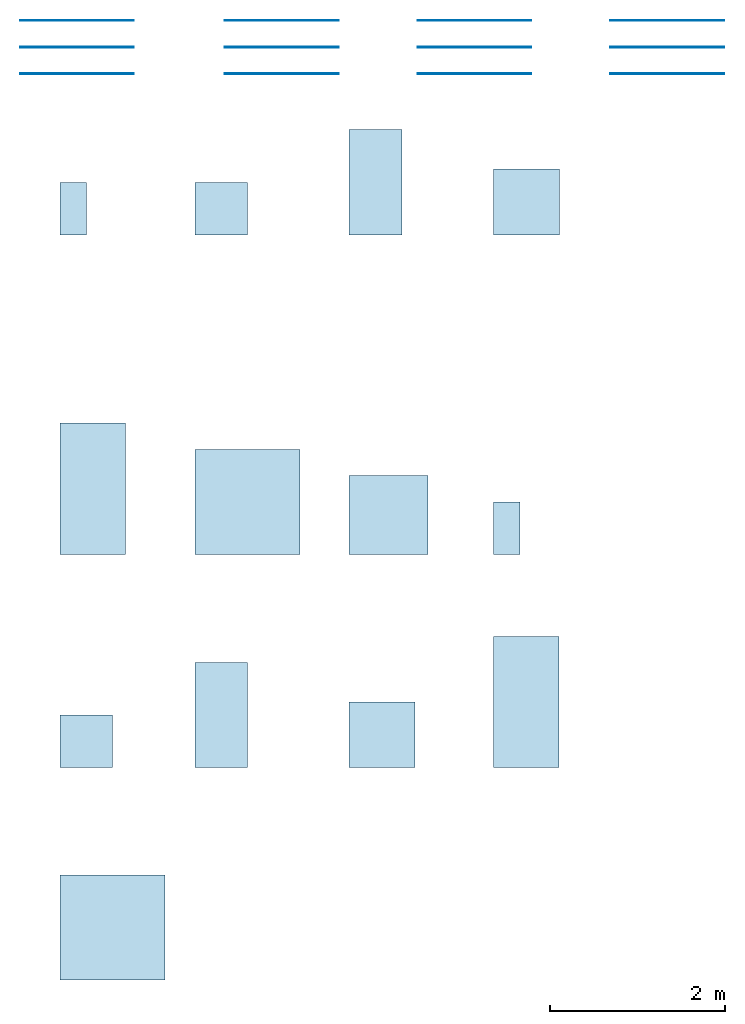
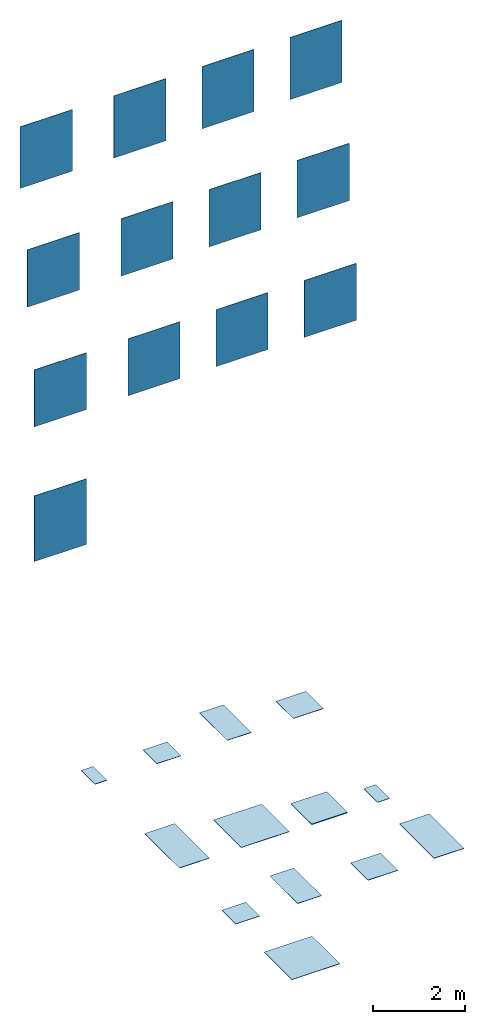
# One storey: 13 slabs, 13 walls.
"""IFC2X3 building model written with IfcOpenShell, lengths in millimetres."""

from ifc_helpers import new_model, entity, si_unit, converted_unit, derived_unit, direction, frame, frame_2d, origin, origin_2d_with_axis, place, context, subcontext, project, spatial, rectangle, extrude, material, layer, layer_set, layer_usage, type_object, element, save


model = new_model("IFC2X3")

# Units and contexts
model_context = context("Model", 3, precision=0.01, world=origin(), true_north=direction((6.12303176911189e-17, 1.0)))
body_context = subcontext(model_context, "Body", "Model", "MODEL_VIEW")
ifc_project = project(units=[si_unit("LENGTHUNIT", "METRE", prefix="MILLI"), si_unit("AREAUNIT", "SQUARE_METRE"), si_unit("VOLUMEUNIT", "CUBIC_METRE"), converted_unit("PLANEANGLEUNIT", "DEGREE", entity("IfcRatioMeasure", 0.0174532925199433), si_unit("PLANEANGLEUNIT", "RADIAN"), dimensions=[0, 0, 0, 0, 0, 0, 0]), si_unit("MASSUNIT", "GRAM", prefix="KILO"), derived_unit("MASSDENSITYUNIT", [(si_unit("MASSUNIT", "GRAM", prefix="KILO"), 1), (si_unit("LENGTHUNIT", "METRE"), -3)]), derived_unit("MOMENTOFINERTIAUNIT", [(si_unit("LENGTHUNIT", "METRE"), 4)]), si_unit("TIMEUNIT", "SECOND"), si_unit("FREQUENCYUNIT", "HERTZ"), si_unit("THERMODYNAMICTEMPERATUREUNIT", "DEGREE_CELSIUS"), derived_unit("THERMALTRANSMITTANCEUNIT", [(si_unit("MASSUNIT", "GRAM", prefix="KILO"), 1), (si_unit("THERMODYNAMICTEMPERATUREUNIT", "KELVIN"), -1), (si_unit("TIMEUNIT", "SECOND"), -3)]), derived_unit("VOLUMETRICFLOWRATEUNIT", [(si_unit("LENGTHUNIT", "METRE"), 3), (si_unit("TIMEUNIT", "SECOND"), -1)]), si_unit("ELECTRICCURRENTUNIT", "AMPERE"), si_unit("ELECTRICVOLTAGEUNIT", "VOLT"), si_unit("POWERUNIT", "WATT"), si_unit("FORCEUNIT", "NEWTON", prefix="KILO"), si_unit("ILLUMINANCEUNIT", "LUX"), si_unit("LUMINOUSFLUXUNIT", "LUMEN"), si_unit("LUMINOUSINTENSITYUNIT", "CANDELA"), derived_unit("USERDEFINED", [(si_unit("MASSUNIT", "GRAM", prefix="KILO"), -1), (si_unit("LENGTHUNIT", "METRE"), -2), (si_unit("TIMEUNIT", "SECOND"), 3), (si_unit("LUMINOUSFLUXUNIT", "LUMEN"), 1)]), derived_unit("LINEARVELOCITYUNIT", [(si_unit("LENGTHUNIT", "METRE"), 1), (si_unit("TIMEUNIT", "SECOND"), -1)]), si_unit("PRESSUREUNIT", "PASCAL"), derived_unit("USERDEFINED", [(si_unit("LENGTHUNIT", "METRE"), -2), (si_unit("MASSUNIT", "GRAM", prefix="KILO"), 1), (si_unit("TIMEUNIT", "SECOND"), -2)]), derived_unit("LINEARFORCEUNIT", [(si_unit("MASSUNIT", "GRAM", prefix="KILO"), 1), (si_unit("LENGTHUNIT", "METRE"), 1), (si_unit("TIMEUNIT", "SECOND"), -2), (si_unit("LENGTHUNIT", "METRE"), -1)]), derived_unit("PLANARFORCEUNIT", [(si_unit("MASSUNIT", "GRAM", prefix="KILO"), 1), (si_unit("LENGTHUNIT", "METRE"), 1), (si_unit("TIMEUNIT", "SECOND"), -2), (si_unit("LENGTHUNIT", "METRE"), -2)])], contexts=[model_context])

# Site, building, storey
site_placement = place(None, origin())
site = spatial("IfcSite", under=ifc_project, at=site_placement, Name="Default", CompositionType="ELEMENT")
building_placement = place(site_placement, origin())
building = spatial("IfcBuilding", under=site, at=building_placement, CompositionType="ELEMENT")
storey_placement = place(building_placement, origin())
storey = spatial("IfcBuildingStorey", under=building, at=storey_placement, Name="Level 0", CompositionType="ELEMENT", Elevation=0.0)

# Slabs
ifc_material_1 = material(Name="Block-Cinder-60x120 NC82")
ifc_layer_1 = layer(ifc_material_1, 9.0)
ifc_material_2 = material(Name="<Unnamed>")
ifc_layer_2 = layer(ifc_material_2, 1.0)
ifc_layer_set_1 = layer_set([ifc_layer_1, ifc_layer_2], Name="Floor:Floor_Tiles_Refin-Block-Cinder-60x120 NC82")
ifc_layer_usage_1 = layer_usage(ifc_layer_set_1, "AXIS3", "POSITIVE", 0.0)
slab_type_1 = type_object("IfcSlabType", Name="Floor:Floor_Tiles_Refin-Block-Cinder-60x120 NC82", PredefinedType="FLOOR", material=ifc_layer_set_1)
slab_1_placement = place(storey_placement, origin())
element("IfcSlab", 1, at=slab_1_placement, inside=storey, type_object=slab_type_1, material=ifc_layer_usage_1, Name="Floor:Floor_Tiles_Refin-Block-Cinder-60x120 NC82", ObjectType="Floor:Floor_Tiles_Refin-Block-Cinder-60x120 NC82", PredefinedType="FLOOR", context=body_context, shape_type="SweptSolid", body=[
    extrude(rectangle(XDim=1200.0, YDim=600.0, at=frame_2d((0.0, 1.08002495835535e-12), x_axis=(1.0, 0.0))), frame((9977.18614186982, 6289.46237428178, 0.0), z_axis=(0.0, 0.0, -1.0), x_axis=(0.0, 1.0, 0.0)), (0.0, 0.0, 1.0), 10.0),
])
ifc_material_3 = material(Name="Block-Cinder-30x60 MX22")
ifc_layer_3 = layer(ifc_material_3, 9.0)
ifc_layer_4 = layer(ifc_material_2, 1.0)
ifc_layer_set_2 = layer_set([ifc_layer_3, ifc_layer_4], Name="Floor:Floor_Tiles_Refin-Block-Cinder-30x60 MX22")
ifc_layer_usage_2 = layer_usage(ifc_layer_set_2, "AXIS3", "POSITIVE", 0.0)
slab_type_2 = type_object("IfcSlabType", Name="Floor:Floor_Tiles_Refin-Block-Cinder-30x60 MX22", PredefinedType="FLOOR", material=ifc_layer_set_2)
slab_2_placement = place(storey_placement, origin())
element("IfcSlab", 2, at=slab_2_placement, inside=storey, type_object=slab_type_2, material=ifc_layer_usage_2, Name="Floor:Floor_Tiles_Refin-Block-Cinder-30x60 MX22", ObjectType="Floor:Floor_Tiles_Refin-Block-Cinder-30x60 MX22", PredefinedType="FLOOR", context=body_context, shape_type="SweptSolid", body=[
    extrude(rectangle(XDim=600.0, YDim=300.0, at=frame_2d((0.0, -5.40012479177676e-13), x_axis=(1.0, 0.0))), frame((6524.37520617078, 5989.4623742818, 0.0), z_axis=(0.0, 0.0, -1.0), x_axis=(0.0, 1.0, 0.0)), (0.0, 0.0, 1.0), 10.0),
])
ifc_material_4 = material(Name="Block-Cinder-120x120 MY54")
ifc_layer_5 = layer(ifc_material_4, 9.0)
ifc_layer_6 = layer(ifc_material_2, 1.0)
ifc_layer_set_3 = layer_set([ifc_layer_5, ifc_layer_6], Name="Floor:Floor_Tiles_Refin-Block-Cinder-120x120 MY54")
ifc_layer_usage_3 = layer_usage(ifc_layer_set_3, "AXIS3", "POSITIVE", 0.0)
slab_type_3 = type_object("IfcSlabType", Name="Floor:Floor_Tiles_Refin-Block-Cinder-120x120 MY54", PredefinedType="FLOOR", material=ifc_layer_set_3)
slab_3_placement = place(storey_placement, origin())
element("IfcSlab", 3, at=slab_3_placement, inside=storey, type_object=slab_type_3, material=ifc_layer_usage_3, Name="Floor:Floor_Tiles_Refin-Block-Cinder-120x120 MY54", ObjectType="Floor:Floor_Tiles_Refin-Block-Cinder-120x120 MY54", PredefinedType="FLOOR", context=body_context, shape_type="SweptSolid", body=[
    extrude(rectangle(XDim=1200.0, YDim=1200.0, at=origin_2d_with_axis()), frame((8517.39240545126, 2639.4623742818, 0.0), z_axis=(0.0, 0.0, -1.0), x_axis=(0.0, 1.0, 0.0)), (0.0, 0.0, 1.0), 10.0),
])
ifc_material_5 = material(Name="Block-Cinder-75x150 MW43")
ifc_layer_7 = layer(ifc_material_5, 9.0)
ifc_layer_8 = layer(ifc_material_2, 1.0)
ifc_layer_set_4 = layer_set([ifc_layer_7, ifc_layer_8], Name="Floor:Floor_Tiles_Refin-Block-Cinder-75x150 MW43")
ifc_layer_usage_4 = layer_usage(ifc_layer_set_4, "AXIS3", "POSITIVE", 0.0)
slab_type_4 = type_object("IfcSlabType", Name="Floor:Floor_Tiles_Refin-Block-Cinder-75x150 MW43", PredefinedType="FLOOR", material=ifc_layer_set_4)
slab_4_placement = place(storey_placement, origin())
element("IfcSlab", 4, at=slab_4_placement, inside=storey, type_object=slab_type_4, material=ifc_layer_usage_4, Name="Floor:Floor_Tiles_Refin-Block-Cinder-75x150 MW43", ObjectType="Floor:Floor_Tiles_Refin-Block-Cinder-75x150 MW43", PredefinedType="FLOOR", context=body_context, shape_type="SweptSolid", body=[
    extrude(rectangle(XDim=1500.0, YDim=750.000000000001, at=frame_2d((0.0, 1.08002495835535e-12), x_axis=(1.0, 0.0))), frame((6749.37520617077, 2789.4623742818, 0.0), z_axis=(0.0, 0.0, -1.0), x_axis=(0.0, 1.0, 0.0)), (0.0, 0.0, 1.0), 10.0),
])
ifc_material_6 = material(Name="Block-Cinder-60x60 MX46")
ifc_layer_9 = layer(ifc_material_6, 9.0)
ifc_layer_10 = layer(ifc_material_2, 1.0)
ifc_layer_set_5 = layer_set([ifc_layer_9, ifc_layer_10], Name="Floor:Floor_Tiles_Refin-Block-Cinder-60x60 MX46")
ifc_layer_usage_5 = layer_usage(ifc_layer_set_5, "AXIS3", "POSITIVE", 0.0)
slab_type_5 = type_object("IfcSlabType", Name="Floor:Floor_Tiles_Refin-Block-Cinder-60x60 MX46", PredefinedType="FLOOR", material=ifc_layer_set_5)
slab_5_placement = place(storey_placement, origin())
element("IfcSlab", 5, at=slab_5_placement, inside=storey, type_object=slab_type_5, material=ifc_layer_usage_5, Name="Floor:Floor_Tiles_Refin-Block-Cinder-60x60 MX46", ObjectType="Floor:Floor_Tiles_Refin-Block-Cinder-60x60 MX46", PredefinedType="FLOOR", context=body_context, shape_type="SweptSolid", body=[
    extrude(rectangle(XDim=600.0, YDim=600.0, at=origin_2d_with_axis()), frame((8217.39240545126, 5988.41920639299, 0.0), z_axis=(0.0, 0.0, -1.0), x_axis=(0.0, 1.0, 0.0)), (0.0, 0.0, 1.0), 10.0),
])
ifc_material_7 = material(Name="Block-Cinder-Soft-30x60 MX23")
ifc_layer_11 = layer(ifc_material_7, 9.0)
ifc_layer_12 = layer(ifc_material_2, 1.0)
ifc_layer_set_6 = layer_set([ifc_layer_11, ifc_layer_12], Name="Floor:Floor_Tiles_Refin-Block-Cinder-Soft-30x60 MX23")
ifc_layer_usage_6 = layer_usage(ifc_layer_set_6, "AXIS3", "POSITIVE", 0.0)
slab_type_6 = type_object("IfcSlabType", Name="Floor:Floor_Tiles_Refin-Block-Cinder-Soft-30x60 MX23", PredefinedType="FLOOR", material=ifc_layer_set_6)
slab_6_placement = place(storey_placement, origin())
element("IfcSlab", 6, at=slab_6_placement, inside=storey, type_object=slab_type_6, material=ifc_layer_usage_6, Name="Floor:Floor_Tiles_Refin-Block-Cinder-Soft-30x60 MX23", ObjectType="Floor:Floor_Tiles_Refin-Block-Cinder-Soft-30x60 MX23", PredefinedType="FLOOR", context=body_context, shape_type="SweptSolid", body=[
    extrude(rectangle(XDim=600.0, YDim=300.000000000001, at=origin_2d_with_axis()), frame((11475.4118687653, 2339.46237428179, 0.0), z_axis=(0.0, 0.0, -1.0), x_axis=(0.0, 1.0, 0.0)), (0.0, 0.0, 1.0), 10.0),
])
ifc_material_8 = material(Name="Block-Cinder-75x75 MX85")
ifc_layer_13 = layer(ifc_material_8, 9.0)
ifc_layer_14 = layer(ifc_material_2, 1.0)
ifc_layer_set_7 = layer_set([ifc_layer_13, ifc_layer_14], Name="Floor:Floor_Tiles_Refin-Block-Cinder-75x75 MX85")
ifc_layer_usage_7 = layer_usage(ifc_layer_set_7, "AXIS3", "POSITIVE", 0.0)
slab_type_7 = type_object("IfcSlabType", Name="Floor:Floor_Tiles_Refin-Block-Cinder-75x75 MX85", PredefinedType="FLOOR", material=ifc_layer_set_7)
slab_7_placement = place(storey_placement, origin())
element("IfcSlab", 7, at=slab_7_placement, inside=storey, type_object=slab_type_7, material=ifc_layer_usage_7, Name="Floor:Floor_Tiles_Refin-Block-Cinder-75x75 MX85", ObjectType="Floor:Floor_Tiles_Refin-Block-Cinder-75x75 MX85", PredefinedType="FLOOR", context=body_context, shape_type="SweptSolid", body=[
    extrude(rectangle(XDim=750.0, YDim=750.000000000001, at=frame_2d((-5.40012479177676e-13, 1.08002495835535e-12), x_axis=(1.0, 0.0))), frame((11702.1861418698, 6064.46237428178, 0.0), z_axis=(0.0, 0.0, -1.0), x_axis=(0.0, 1.0, 0.0)), (0.0, 0.0, 1.0), 10.0),
])
ifc_material_9 = material(Name="Block-Cinder-Soft-60x60 MX47")
ifc_layer_15 = layer(ifc_material_9, 9.0)
ifc_layer_16 = layer(ifc_material_2, 1.0)
ifc_layer_set_8 = layer_set([ifc_layer_15, ifc_layer_16], Name="Floor:Floor_Tiles_Refin-Block-Cinder-Soft-60x60 MX47")
ifc_layer_usage_8 = layer_usage(ifc_layer_set_8, "AXIS3", "POSITIVE", 0.0)
slab_type_8 = type_object("IfcSlabType", Name="Floor:Floor_Tiles_Refin-Block-Cinder-Soft-60x60 MX47", PredefinedType="FLOOR", material=ifc_layer_set_8)
slab_8_placement = place(storey_placement, origin())
element("IfcSlab", 8, at=slab_8_placement, inside=storey, type_object=slab_type_8, material=ifc_layer_usage_8, Name="Floor:Floor_Tiles_Refin-Block-Cinder-Soft-60x60 MX47", ObjectType="Floor:Floor_Tiles_Refin-Block-Cinder-Soft-60x60 MX47", PredefinedType="FLOOR", context=body_context, shape_type="SweptSolid", body=[
    extrude(rectangle(XDim=600.0, YDim=600.0, at=frame_2d((0.0, -1.08002495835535e-12), x_axis=(1.0, 0.0))), frame((6674.37520617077, -96.5632765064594, 0.0), z_axis=(0.0, 0.0, -1.0), x_axis=(0.0, 1.0, 0.0)), (0.0, 0.0, 1.0), 10.0),
])
ifc_material_10 = material(Name="Block-Cinder-Soft-75x75 MX86")
ifc_layer_17 = layer(ifc_material_10, 9.0)
ifc_layer_18 = layer(ifc_material_2, 1.0)
ifc_layer_set_9 = layer_set([ifc_layer_17, ifc_layer_18], Name="Floor:Floor_Tiles_Refin-Block-Cinder-Soft-75x75 MX86")
ifc_layer_usage_9 = layer_usage(ifc_layer_set_9, "AXIS3", "POSITIVE", 0.0)
slab_type_9 = type_object("IfcSlabType", Name="Floor:Floor_Tiles_Refin-Block-Cinder-Soft-75x75 MX86", PredefinedType="FLOOR", material=ifc_layer_set_9)
slab_9_placement = place(storey_placement, origin())
element("IfcSlab", 9, at=slab_9_placement, inside=storey, type_object=slab_type_9, material=ifc_layer_usage_9, Name="Floor:Floor_Tiles_Refin-Block-Cinder-Soft-75x75 MX86", ObjectType="Floor:Floor_Tiles_Refin-Block-Cinder-Soft-75x75 MX86", PredefinedType="FLOOR", context=body_context, shape_type="SweptSolid", body=[
    extrude(rectangle(XDim=750.0, YDim=750.000000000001, at=frame_2d((0.0, 1.08002495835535e-12), x_axis=(1.0, 0.0))), frame((10052.1861418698, -21.5632765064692, 0.0), z_axis=(0.0, 0.0, -1.0), x_axis=(0.0, 1.0, 0.0)), (0.0, 0.0, 1.0), 10.0),
])
ifc_material_11 = material(Name="Block-Cinder-Soft-75x150 MW48")
ifc_layer_19 = layer(ifc_material_11, 9.0)
ifc_layer_20 = layer(ifc_material_2, 1.0)
ifc_layer_set_10 = layer_set([ifc_layer_19, ifc_layer_20], Name="Floor:Floor_Tiles_Refin-Block-Cinder-Soft-75x150 MW48")
ifc_layer_usage_10 = layer_usage(ifc_layer_set_10, "AXIS3", "POSITIVE", 0.0)
slab_type_10 = type_object("IfcSlabType", Name="Floor:Floor_Tiles_Refin-Block-Cinder-Soft-75x150 MW48", PredefinedType="FLOOR", material=ifc_layer_set_10)
slab_10_placement = place(storey_placement, origin())
element("IfcSlab", 10, at=slab_10_placement, inside=storey, type_object=slab_type_10, material=ifc_layer_usage_10, Name="Floor:Floor_Tiles_Refin-Block-Cinder-Soft-75x150 MW48", ObjectType="Floor:Floor_Tiles_Refin-Block-Cinder-Soft-75x150 MW48", PredefinedType="FLOOR", context=body_context, shape_type="SweptSolid", body=[
    extrude(rectangle(XDim=1500.0, YDim=750.000000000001, at=frame_2d((0.0, -1.08002495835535e-12), x_axis=(1.0, 0.0))), frame((11700.4118687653, 353.436723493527, 0.0), z_axis=(0.0, 0.0, -1.0), x_axis=(0.0, 1.0, 0.0)), (0.0, 0.0, 1.0), 10.0),
])
ifc_material_12 = material(Name="Block-Cinder-OUT2.0-90x90 MJ95")
ifc_layer_21 = layer(ifc_material_12, 20.0)
ifc_layer_22 = layer(ifc_material_2, 1.0)
ifc_layer_set_11 = layer_set([ifc_layer_21, ifc_layer_22], Name="Floor:Floor_Tiles_Refin-Block-Cinder-OUT2.0-90x90 MJ95")
ifc_layer_usage_11 = layer_usage(ifc_layer_set_11, "AXIS3", "POSITIVE", 0.0)
slab_type_11 = type_object("IfcSlabType", Name="Floor:Floor_Tiles_Refin-Block-Cinder-OUT2.0-90x90 MJ95", PredefinedType="FLOOR", material=ifc_layer_set_11)
slab_11_placement = place(storey_placement, origin())
element("IfcSlab", 11, at=slab_11_placement, inside=storey, type_object=slab_type_11, material=ifc_layer_usage_11, Name="Floor:Floor_Tiles_Refin-Block-Cinder-OUT2.0-90x90 MJ95", ObjectType="Floor:Floor_Tiles_Refin-Block-Cinder-OUT2.0-90x90 MJ95", PredefinedType="FLOOR", context=body_context, shape_type="SweptSolid", body=[
    extrude(rectangle(XDim=900.0, YDim=900.000000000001, at=frame_2d((0.0, 1.08002495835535e-12), x_axis=(1.0, 0.0))), frame((10127.1861418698, 2489.46237428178, 0.0), z_axis=(0.0, 0.0, -1.0), x_axis=(0.0, 1.0, 0.0)), (0.0, 0.0, 1.0), 21.0),
])
ifc_material_13 = material(Name="Block-Cinder-Soft-60x120 NC83")
ifc_layer_23 = layer(ifc_material_13, 9.0)
ifc_layer_24 = layer(ifc_material_2, 1.0)
ifc_layer_set_12 = layer_set([ifc_layer_23, ifc_layer_24], Name="Floor:Floor_Tiles_Refin-Block-Cinder-Soft-60x120 NC83")
ifc_layer_usage_12 = layer_usage(ifc_layer_set_12, "AXIS3", "POSITIVE", 0.0)
slab_type_12 = type_object("IfcSlabType", Name="Floor:Floor_Tiles_Refin-Block-Cinder-Soft-60x120 NC83", PredefinedType="FLOOR", material=ifc_layer_set_12)
slab_12_placement = place(storey_placement, origin())
element("IfcSlab", 12, at=slab_12_placement, inside=storey, type_object=slab_type_12, material=ifc_layer_usage_12, Name="Floor:Floor_Tiles_Refin-Block-Cinder-Soft-60x120 NC83", ObjectType="Floor:Floor_Tiles_Refin-Block-Cinder-Soft-60x120 NC83", PredefinedType="FLOOR", context=body_context, shape_type="SweptSolid", body=[
    extrude(rectangle(XDim=1200.0, YDim=600.0, at=frame_2d((0.0, -1.08002495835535e-12), x_axis=(1.0, 0.0))), frame((8217.39240545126, 203.436723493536, 0.0), z_axis=(0.0, 0.0, -1.0), x_axis=(0.0, 1.0, 0.0)), (0.0, 0.0, 1.0), 10.0),
])
ifc_material_14 = material(Name="Block-Cinder-Soft-120x120 MY55")
ifc_layer_25 = layer(ifc_material_14, 9.0)
ifc_layer_26 = layer(ifc_material_2, 1.0)
ifc_layer_set_13 = layer_set([ifc_layer_25, ifc_layer_26], Name="Floor:Floor_Tiles_Refin-Block-Cinder-Soft-120x120 MY55")
ifc_layer_usage_13 = layer_usage(ifc_layer_set_13, "AXIS3", "POSITIVE", 0.0)
slab_type_13 = type_object("IfcSlabType", Name="Floor:Floor_Tiles_Refin-Block-Cinder-Soft-120x120 MY55", PredefinedType="FLOOR", material=ifc_layer_set_13)
slab_13_placement = place(storey_placement, origin())
element("IfcSlab", 13, at=slab_13_placement, inside=storey, type_object=slab_type_13, material=ifc_layer_usage_13, Name="Floor:Floor_Tiles_Refin-Block-Cinder-Soft-120x120 MY55", ObjectType="Floor:Floor_Tiles_Refin-Block-Cinder-Soft-120x120 MY55", PredefinedType="FLOOR", context=body_context, shape_type="SweptSolid", body=[
    extrude(rectangle(XDim=1200.0, YDim=1200.0, at=origin_2d_with_axis()), frame((6974.37520617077, -2220.53762571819, 0.0), z_axis=(0.0, 0.0, -1.0), x_axis=(0.0, 1.0, 0.0)), (0.0, 0.0, 1.0), 10.0),
])

# Walls
ifc_layer_27 = layer(ifc_material_2, 1.0)
ifc_layer_28 = layer(ifc_material_6, 9.0)
ifc_layer_set_14 = layer_set([ifc_layer_27, ifc_layer_28], Name="Basic Wall:Wall_Tiles_Refin-Block-Cinder-60x60 MX46")
ifc_layer_usage_14 = layer_usage(ifc_layer_set_14, "AXIS2", "NEGATIVE", 5.0)
wall_type_1 = type_object("IfcWallType", Name="Basic Wall:Wall_Tiles_Refin-Block-Cinder-60x60 MX46", PredefinedType="STANDARD", material=ifc_layer_set_14)
wall_1_placement = place(storey_placement, frame((8257.37520617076, 8137.38386313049, 14387.6770443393)))
element("IfcWallStandardCase", 14, at=wall_1_placement, inside=storey, type_object=wall_type_1, material=ifc_layer_usage_14, Name="Basic Wall:Wall_Tiles_Refin-Block-Cinder-60x60 MX46", ObjectType="Basic Wall:Wall_Tiles_Refin-Block-Cinder-60x60 MX46", context=body_context, shape_type="SweptSolid", body=[
    extrude(rectangle(XDim=1300.0, YDim=9.99999999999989, at=frame_2d((650.0, 7.63833440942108e-14), x_axis=(-1.0, 0.0))), origin(), (0.0, 0.0, 1.0), 1641.74173522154),
])
ifc_layer_29 = layer(ifc_material_2, 1.0)
ifc_layer_30 = layer(ifc_material_1, 9.0)
ifc_layer_set_15 = layer_set([ifc_layer_29, ifc_layer_30], Name="Basic Wall:Wall_Tiles_Refin-Block-Cinder-60x120 NC82")
ifc_layer_usage_15 = layer_usage(ifc_layer_set_15, "AXIS2", "NEGATIVE", 5.0)
wall_type_2 = type_object("IfcWallType", Name="Basic Wall:Wall_Tiles_Refin-Block-Cinder-60x120 NC82", PredefinedType="STANDARD", material=ifc_layer_set_15)
wall_2_placement = place(storey_placement, frame((10457.3752061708, 8137.38386313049, 14387.6770443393)))
element("IfcWallStandardCase", 15, at=wall_2_placement, inside=storey, type_object=wall_type_2, material=ifc_layer_usage_15, Name="Basic Wall:Wall_Tiles_Refin-Block-Cinder-60x120 NC82", ObjectType="Basic Wall:Wall_Tiles_Refin-Block-Cinder-60x120 NC82", context=body_context, shape_type="SweptSolid", body=[
    extrude(rectangle(XDim=1300.0, YDim=9.99999999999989, at=frame_2d((650.0, 7.63833440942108e-14), x_axis=(-1.0, 0.0))), origin(), (0.0, 0.0, 1.0), 1641.74173522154),
])
ifc_layer_31 = layer(ifc_material_2, 1.0)
ifc_layer_32 = layer(ifc_material_3, 9.0)
ifc_layer_set_16 = layer_set([ifc_layer_31, ifc_layer_32], Name="Basic Wall:Wall_Tiles_Refin-Block-Cinder-30x60 MX22")
ifc_layer_usage_16 = layer_usage(ifc_layer_set_16, "AXIS2", "NEGATIVE", 5.0)
wall_type_3 = type_object("IfcWallType", Name="Basic Wall:Wall_Tiles_Refin-Block-Cinder-30x60 MX22", PredefinedType="STANDARD", material=ifc_layer_set_16)
wall_3_placement = place(storey_placement, frame((5917.37520617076, 8137.38386313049, 14403.726734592)))
element("IfcWallStandardCase", 16, at=wall_3_placement, inside=storey, type_object=wall_type_3, material=ifc_layer_usage_16, Name="Basic Wall:Wall_Tiles_Refin-Block-Cinder-30x60 MX22", ObjectType="Basic Wall:Wall_Tiles_Refin-Block-Cinder-30x60 MX22", context=body_context, shape_type="SweptSolid", body=[
    extrude(rectangle(XDim=1300.0, YDim=9.99999999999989, at=frame_2d((650.0, 7.63833440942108e-14), x_axis=(-1.0, 0.0))), origin(), (0.0, 0.0, 1.0), 1625.69204496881),
])
ifc_layer_33 = layer(ifc_material_2, 1.0)
ifc_layer_34 = layer(ifc_material_5, 9.0)
ifc_layer_set_17 = layer_set([ifc_layer_33, ifc_layer_34], Name="Basic Wall:Wall_Tiles_Refin-Block-Cinder-75x150 MW43")
ifc_layer_usage_17 = layer_usage(ifc_layer_set_17, "AXIS2", "NEGATIVE", 5.0)
wall_type_4 = type_object("IfcWallType", Name="Basic Wall:Wall_Tiles_Refin-Block-Cinder-75x150 MW43", PredefinedType="STANDARD", material=ifc_layer_set_17)
wall_4_placement = place(storey_placement, frame((5917.37520617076, 7832.38386313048, 11452.5436262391)))
element("IfcWallStandardCase", 17, at=wall_4_placement, inside=storey, type_object=wall_type_4, material=ifc_layer_usage_17, Name="Basic Wall:Wall_Tiles_Refin-Block-Cinder-75x150 MW43", ObjectType="Basic Wall:Wall_Tiles_Refin-Block-Cinder-75x150 MW43", context=body_context, shape_type="SweptSolid", body=[
    extrude(rectangle(XDim=1300.0, YDim=9.99999999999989, at=frame_2d((650.0, 0.0), x_axis=(-1.0, 0.0))), origin(), (0.0, 0.0, 1.0), 1513.19855655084),
])
ifc_layer_35 = layer(ifc_material_2, 1.0)
ifc_layer_36 = layer(ifc_material_4, 9.0)
ifc_layer_set_18 = layer_set([ifc_layer_35, ifc_layer_36], Name="Basic Wall:Wall_Tiles_Refin-Block-Cinder-120x120 MY54")
ifc_layer_usage_18 = layer_usage(ifc_layer_set_18, "AXIS2", "NEGATIVE", 5.0)
wall_type_5 = type_object("IfcWallType", Name="Basic Wall:Wall_Tiles_Refin-Block-Cinder-120x120 MY54", PredefinedType="STANDARD", material=ifc_layer_set_18)
wall_5_placement = place(storey_placement, frame((8257.37520617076, 7832.38386313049, 11452.5436262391)))
element("IfcWallStandardCase", 18, at=wall_5_placement, inside=storey, type_object=wall_type_5, material=ifc_layer_usage_18, Name="Basic Wall:Wall_Tiles_Refin-Block-Cinder-120x120 MY54", ObjectType="Basic Wall:Wall_Tiles_Refin-Block-Cinder-120x120 MY54", context=body_context, shape_type="SweptSolid", body=[
    extrude(rectangle(XDim=1300.0, YDim=9.99999999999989, at=frame_2d((650.0, 0.0), x_axis=(-1.0, 0.0))), origin(), (0.0, 0.0, 1.0), 1513.19855655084),
])
ifc_layer_37 = layer(ifc_material_2, 1.0)
ifc_layer_38 = layer(ifc_material_12, 9.0)
ifc_layer_set_19 = layer_set([ifc_layer_37, ifc_layer_38], Name="Basic Wall:Wall_Tiles_Refin-Block-Cinder-OUT2.0-90x90 MJ95")
ifc_layer_usage_19 = layer_usage(ifc_layer_set_19, "AXIS2", "NEGATIVE", 5.0)
wall_type_6 = type_object("IfcWallType", Name="Basic Wall:Wall_Tiles_Refin-Block-Cinder-OUT2.0-90x90 MJ95", PredefinedType="STANDARD", material=ifc_layer_set_19)
wall_6_placement = place(storey_placement, frame((10457.3752061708, 7832.38386313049, 11452.5436262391)))
element("IfcWallStandardCase", 19, at=wall_6_placement, inside=storey, type_object=wall_type_6, material=ifc_layer_usage_19, Name="Basic Wall:Wall_Tiles_Refin-Block-Cinder-OUT2.0-90x90 MJ95", ObjectType="Basic Wall:Wall_Tiles_Refin-Block-Cinder-OUT2.0-90x90 MJ95", context=body_context, shape_type="SweptSolid", body=[
    extrude(rectangle(XDim=1300.0, YDim=9.99999999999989, at=frame_2d((650.000000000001, 0.0), x_axis=(-1.0, 0.0))), origin(), (0.0, 0.0, 1.0), 1513.19855655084),
])
ifc_layer_39 = layer(ifc_material_2, 1.0)
ifc_layer_40 = layer(ifc_material_9, 9.0)
ifc_layer_set_20 = layer_set([ifc_layer_39, ifc_layer_40], Name="Basic Wall:Wall_Tiles_Refin-Block-Cinder-Soft-60x60 MX47")
ifc_layer_usage_20 = layer_usage(ifc_layer_set_20, "AXIS2", "NEGATIVE", 5.0)
wall_type_7 = type_object("IfcWallType", Name="Basic Wall:Wall_Tiles_Refin-Block-Cinder-Soft-60x60 MX47", PredefinedType="STANDARD", material=ifc_layer_set_20)
wall_7_placement = place(storey_placement, frame((5917.37520617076, 7527.38386313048, 8479.10272143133)))
element("IfcWallStandardCase", 20, at=wall_7_placement, inside=storey, type_object=wall_type_7, material=ifc_layer_usage_20, Name="Basic Wall:Wall_Tiles_Refin-Block-Cinder-Soft-60x60 MX47", ObjectType="Basic Wall:Wall_Tiles_Refin-Block-Cinder-Soft-60x60 MX47", context=body_context, shape_type="SweptSolid", body=[
    extrude(rectangle(XDim=1300.0, YDim=9.99999999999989, at=frame_2d((650.0, 0.0), x_axis=(-1.0, 0.0))), origin(), (0.0, 0.0, 1.0), 1502.57401590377),
])
ifc_layer_41 = layer(ifc_material_2, 1.0)
ifc_layer_42 = layer(ifc_material_13, 9.0)
ifc_layer_set_21 = layer_set([ifc_layer_41, ifc_layer_42], Name="Basic Wall:Wall_Tiles_Refin-Block-Cinder-Soft-60x120 NC83")
ifc_layer_usage_21 = layer_usage(ifc_layer_set_21, "AXIS2", "NEGATIVE", 5.0)
wall_type_8 = type_object("IfcWallType", Name="Basic Wall:Wall_Tiles_Refin-Block-Cinder-Soft-60x120 NC83", PredefinedType="STANDARD", material=ifc_layer_set_21)
wall_8_placement = place(storey_placement, frame((8257.37520617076, 7527.38386313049, 8479.10272143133)))
element("IfcWallStandardCase", 21, at=wall_8_placement, inside=storey, type_object=wall_type_8, material=ifc_layer_usage_21, Name="Basic Wall:Wall_Tiles_Refin-Block-Cinder-Soft-60x120 NC83", ObjectType="Basic Wall:Wall_Tiles_Refin-Block-Cinder-Soft-60x120 NC83", context=body_context, shape_type="SweptSolid", body=[
    extrude(rectangle(XDim=1300.0, YDim=9.99999999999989, at=frame_2d((650.0, 0.0), x_axis=(-1.0, 0.0))), origin(), (0.0, 0.0, 1.0), 1502.57401590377),
])
ifc_layer_43 = layer(ifc_material_2, 1.0)
ifc_layer_44 = layer(ifc_material_10, 9.0)
ifc_layer_set_22 = layer_set([ifc_layer_43, ifc_layer_44], Name="Basic Wall:Wall_Tiles_Refin-Block-Cinder-Soft-75x75 MX86")
ifc_layer_usage_22 = layer_usage(ifc_layer_set_22, "AXIS2", "NEGATIVE", 5.0)
wall_type_9 = type_object("IfcWallType", Name="Basic Wall:Wall_Tiles_Refin-Block-Cinder-Soft-75x75 MX86", PredefinedType="STANDARD", material=ifc_layer_set_22)
wall_9_placement = place(storey_placement, frame((10457.3752061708, 7527.38386313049, 8479.10272143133)))
element("IfcWallStandardCase", 22, at=wall_9_placement, inside=storey, type_object=wall_type_9, material=ifc_layer_usage_22, Name="Basic Wall:Wall_Tiles_Refin-Block-Cinder-Soft-75x75 MX86", ObjectType="Basic Wall:Wall_Tiles_Refin-Block-Cinder-Soft-75x75 MX86", context=body_context, shape_type="SweptSolid", body=[
    extrude(rectangle(XDim=1300.0, YDim=9.99999999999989, at=frame_2d((650.000000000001, 0.0), x_axis=(-1.0, 0.0))), origin(), (0.0, 0.0, 1.0), 1502.57401590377),
])
ifc_layer_45 = layer(ifc_material_2, 1.0)
ifc_layer_46 = layer(ifc_material_8, 9.0)
ifc_layer_set_23 = layer_set([ifc_layer_45, ifc_layer_46], Name="Basic Wall:Wall_Tiles_Refin-Block-Cinder-75x75 MX85")
ifc_layer_usage_23 = layer_usage(ifc_layer_set_23, "AXIS2", "NEGATIVE", 5.0)
wall_type_10 = type_object("IfcWallType", Name="Basic Wall:Wall_Tiles_Refin-Block-Cinder-75x75 MX85", PredefinedType="STANDARD", material=ifc_layer_set_23)
wall_10_placement = place(storey_placement, frame((12657.3752061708, 8137.3838631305, 14387.6770443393)))
element("IfcWallStandardCase", 23, at=wall_10_placement, inside=storey, type_object=wall_type_10, material=ifc_layer_usage_23, Name="Basic Wall:Wall_Tiles_Refin-Block-Cinder-75x75 MX85", ObjectType="Basic Wall:Wall_Tiles_Refin-Block-Cinder-75x75 MX85", context=body_context, shape_type="SweptSolid", body=[
    extrude(rectangle(XDim=1300.0, YDim=9.99999999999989, at=frame_2d((650.0, 7.63833440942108e-14), x_axis=(-1.0, 0.0))), origin(), (0.0, 0.0, 1.0), 1641.74173522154),
])
ifc_layer_47 = layer(ifc_material_2, 1.0)
ifc_layer_48 = layer(ifc_material_7, 9.0)
ifc_layer_set_24 = layer_set([ifc_layer_47, ifc_layer_48], Name="Basic Wall:Wall_Tiles_Refin-Block-Cinder-Soft-30x60 MX23")
ifc_layer_usage_24 = layer_usage(ifc_layer_set_24, "AXIS2", "NEGATIVE", 5.0)
wall_type_11 = type_object("IfcWallType", Name="Basic Wall:Wall_Tiles_Refin-Block-Cinder-Soft-30x60 MX23", PredefinedType="STANDARD", material=ifc_layer_set_24)
wall_11_placement = place(storey_placement, frame((12657.3752061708, 7832.3838631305, 11452.5436262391)))
element("IfcWallStandardCase", 24, at=wall_11_placement, inside=storey, type_object=wall_type_11, material=ifc_layer_usage_24, Name="Basic Wall:Wall_Tiles_Refin-Block-Cinder-Soft-30x60 MX23", ObjectType="Basic Wall:Wall_Tiles_Refin-Block-Cinder-Soft-30x60 MX23", context=body_context, shape_type="SweptSolid", body=[
    extrude(rectangle(XDim=1300.0, YDim=9.99999999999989, at=frame_2d((650.0, 0.0), x_axis=(-1.0, 0.0))), origin(), (0.0, 0.0, 1.0), 1513.19855655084),
])
ifc_layer_49 = layer(ifc_material_2, 1.0)
ifc_layer_50 = layer(ifc_material_11, 9.0)
ifc_layer_set_25 = layer_set([ifc_layer_49, ifc_layer_50], Name="Basic Wall:Wall_Tiles_Refin-Block-Cinder-Soft-75x150 MW48")
ifc_layer_usage_25 = layer_usage(ifc_layer_set_25, "AXIS2", "NEGATIVE", 5.0)
wall_type_12 = type_object("IfcWallType", Name="Basic Wall:Wall_Tiles_Refin-Block-Cinder-Soft-75x150 MW48", PredefinedType="STANDARD", material=ifc_layer_set_25)
wall_12_placement = place(storey_placement, frame((12657.3752061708, 7527.3838631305, 8479.10272143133)))
element("IfcWallStandardCase", 25, at=wall_12_placement, inside=storey, type_object=wall_type_12, material=ifc_layer_usage_25, Name="Basic Wall:Wall_Tiles_Refin-Block-Cinder-Soft-75x150 MW48", ObjectType="Basic Wall:Wall_Tiles_Refin-Block-Cinder-Soft-75x150 MW48", context=body_context, shape_type="SweptSolid", body=[
    extrude(rectangle(XDim=1300.0, YDim=9.99999999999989, at=frame_2d((650.0, 0.0), x_axis=(-1.0, 0.0))), origin(), (0.0, 0.0, 1.0), 1502.57401590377),
])
ifc_layer_51 = layer(ifc_material_2, 1.0)
ifc_layer_52 = layer(ifc_material_14, 9.0)
ifc_layer_set_26 = layer_set([ifc_layer_51, ifc_layer_52], Name="Basic Wall:Wall_Tiles_Refin-Block-Cinder-Soft-120x120 MY55")
ifc_layer_usage_26 = layer_usage(ifc_layer_set_26, "AXIS2", "NEGATIVE", 5.0)
wall_type_13 = type_object("IfcWallType", Name="Basic Wall:Wall_Tiles_Refin-Block-Cinder-Soft-120x120 MY55", PredefinedType="STANDARD", material=ifc_layer_set_26)
wall_13_placement = place(storey_placement, frame((5917.37520617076, 7527.38386313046, 4921.07859745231)))
element("IfcWallStandardCase", 26, at=wall_13_placement, inside=storey, type_object=wall_type_13, material=ifc_layer_usage_26, Name="Basic Wall:Wall_Tiles_Refin-Block-Cinder-Soft-120x120 MY55", ObjectType="Basic Wall:Wall_Tiles_Refin-Block-Cinder-Soft-120x120 MY55", context=body_context, shape_type="SweptSolid", body=[
    extrude(rectangle(XDim=1300.0, YDim=9.99999999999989, at=frame_2d((650.0, 0.0), x_axis=(-1.0, 0.0))), origin(), (0.0, 0.0, 1.0), 1733.84304651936),
])

save(model, "model.ifc")
